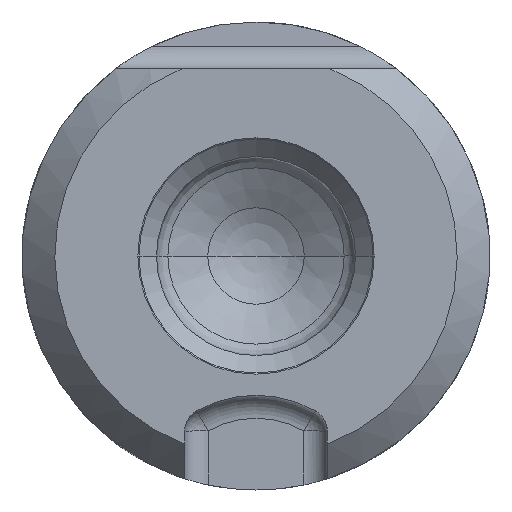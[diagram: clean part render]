
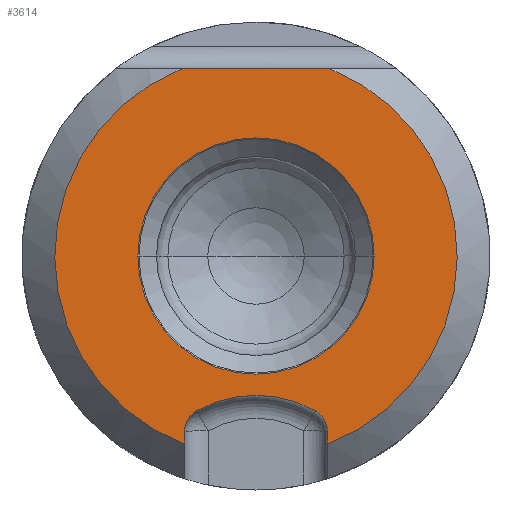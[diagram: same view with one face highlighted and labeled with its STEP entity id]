
A CAD part, left-side view. The second image highlights one B-rep face of the part: STEP entity #3614.
In plain terms, the highlighted planar face has unit normal (-1, 0, 0).
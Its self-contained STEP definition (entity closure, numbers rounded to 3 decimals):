
#1031=DIRECTION('',(0.,0.,1.));
#1032=VECTOR('',#1031,0.275);
#1033=CARTESIAN_POINT('',(-22.,6.525,-4.02));
#1034=LINE('',#1033,#1032);
#1046=CARTESIAN_POINT('',(-22.,5.,0.));
#1047=DIRECTION('',(1.,0.,0.));
#1048=DIRECTION('',(0.,-0.367,0.93));
#1049=AXIS2_PLACEMENT_3D('',#1046,#1047,#1048);
#1051=DIRECTION('',(0.,0.,1.));
#1052=VECTOR('',#1051,0.275);
#1053=CARTESIAN_POINT('',(-22.,3.475,-4.02));
#1054=LINE('',#1053,#1052);
#1055=CARTESIAN_POINT('',(-22.,3.975,-3.746));
#1056=DIRECTION('',(-1.,0.,0.));
#1057=DIRECTION('',(0.,-1.,0.));
#1058=AXIS2_PLACEMENT_3D('',#1055,#1056,#1057);
#1060=CARTESIAN_POINT('',(-22.,5.,-5.551));
#1061=DIRECTION('',(-1.,0.,0.));
#1062=DIRECTION('',(0.,-0.494,0.87));
#1063=AXIS2_PLACEMENT_3D('',#1060,#1061,#1062);
#1065=CARTESIAN_POINT('',(-22.,6.025,-3.746));
#1066=DIRECTION('',(-1.,0.,0.));
#1067=DIRECTION('',(0.,0.494,0.87));
#1068=AXIS2_PLACEMENT_3D('',#1065,#1066,#1067);
#1070=CARTESIAN_POINT('',(-22.,5.,0.));
#1071=DIRECTION('',(1.,0.,0.));
#1072=DIRECTION('',(0.,0.355,-0.935));
#1073=AXIS2_PLACEMENT_3D('',#1070,#1071,#1072);
#1075=CARTESIAN_POINT('',(-22.,5.,0.));
#1076=DIRECTION('',(-1.,0.,0.));
#1077=DIRECTION('',(0.,1.,0.));
#1078=AXIS2_PLACEMENT_3D('',#1075,#1076,#1077);
#1080=CARTESIAN_POINT('',(-22.,5.,0.));
#1081=DIRECTION('',(-1.,0.,0.));
#1082=DIRECTION('',(0.,-1.,0.));
#1083=AXIS2_PLACEMENT_3D('',#1080,#1081,#1082);
#1085=DIRECTION('',(0.,1.,0.));
#1086=VECTOR('',#1085,3.156);
#1087=CARTESIAN_POINT('',(-22.,3.422,4.));
#1088=LINE('',#1087,#1086);
#1737=CARTESIAN_POINT('',(-22.,6.525,-4.02));
#1738=CARTESIAN_POINT('',(-22.,6.525,-3.746));
#1739=VERTEX_POINT('',#1737);
#1740=VERTEX_POINT('',#1738);
#1741=CARTESIAN_POINT('',(-22.,3.422,4.));
#1742=CARTESIAN_POINT('',(-22.,6.578,4.));
#1743=VERTEX_POINT('',#1741);
#1744=VERTEX_POINT('',#1742);
#1745=CARTESIAN_POINT('',(-22.,3.475,-4.02));
#1746=VERTEX_POINT('',#1745);
#1747=CARTESIAN_POINT('',(-22.,3.475,-3.746));
#1748=VERTEX_POINT('',#1747);
#1749=CARTESIAN_POINT('',(-22.,3.728,-3.311));
#1750=VERTEX_POINT('',#1749);
#1751=CARTESIAN_POINT('',(-22.,6.272,-3.311));
#1752=VERTEX_POINT('',#1751);
#1753=CARTESIAN_POINT('',(-22.,7.525,0.));
#1754=CARTESIAN_POINT('',(-22.,2.475,0.));
#1755=VERTEX_POINT('',#1753);
#1756=VERTEX_POINT('',#1754);
#3586=CARTESIAN_POINT('',(-22.,10.25,-5.25));
#3587=DIRECTION('',(-1.,0.,0.));
#3588=DIRECTION('',(0.,-1.,0.));
#3589=AXIS2_PLACEMENT_3D('',#3586,#3587,#3588);
#3590=PLANE('',#3589);
#3592=ORIENTED_EDGE('',*,*,#3591,.F.);
#3594=ORIENTED_EDGE('',*,*,#3593,.T.);
#3596=ORIENTED_EDGE('',*,*,#3595,.T.);
#3598=ORIENTED_EDGE('',*,*,#3597,.T.);
#3600=ORIENTED_EDGE('',*,*,#3599,.T.);
#3602=ORIENTED_EDGE('',*,*,#3601,.T.);
#3603=ORIENTED_EDGE('',*,*,#3575,.F.);
#3605=ORIENTED_EDGE('',*,*,#3604,.T.);
#3606=EDGE_LOOP('',(#3592,#3594,#3596,#3598,#3600,#3602,#3603,#3605));
#3607=FACE_OUTER_BOUND('',#3606,.F.);
#3609=ORIENTED_EDGE('',*,*,#3608,.T.);
#3611=ORIENTED_EDGE('',*,*,#3610,.T.);
#3612=EDGE_LOOP('',(#3609,#3611));
#3613=FACE_BOUND('',#3612,.F.);
#3614=ADVANCED_FACE('',(#3607,#3613),#3590,.T.);
#1050=CIRCLE('',#1049,4.3);
#1059=CIRCLE('',#1058,0.5);
#1064=CIRCLE('',#1063,2.576);
#1069=CIRCLE('',#1068,0.5);
#1074=CIRCLE('',#1073,4.3);
#1079=CIRCLE('',#1078,2.525);
#1084=CIRCLE('',#1083,2.525);
#3575=EDGE_CURVE('',#1739,#1740,#1034,.T.);
#3591=EDGE_CURVE('',#1743,#1744,#1088,.T.);
#3593=EDGE_CURVE('',#1743,#1746,#1050,.T.);
#3595=EDGE_CURVE('',#1746,#1748,#1054,.T.);
#3597=EDGE_CURVE('',#1748,#1750,#1059,.T.);
#3599=EDGE_CURVE('',#1750,#1752,#1064,.T.);
#3601=EDGE_CURVE('',#1752,#1740,#1069,.T.);
#3604=EDGE_CURVE('',#1739,#1744,#1074,.T.);
#3608=EDGE_CURVE('',#1755,#1756,#1079,.T.);
#3610=EDGE_CURVE('',#1756,#1755,#1084,.T.);
